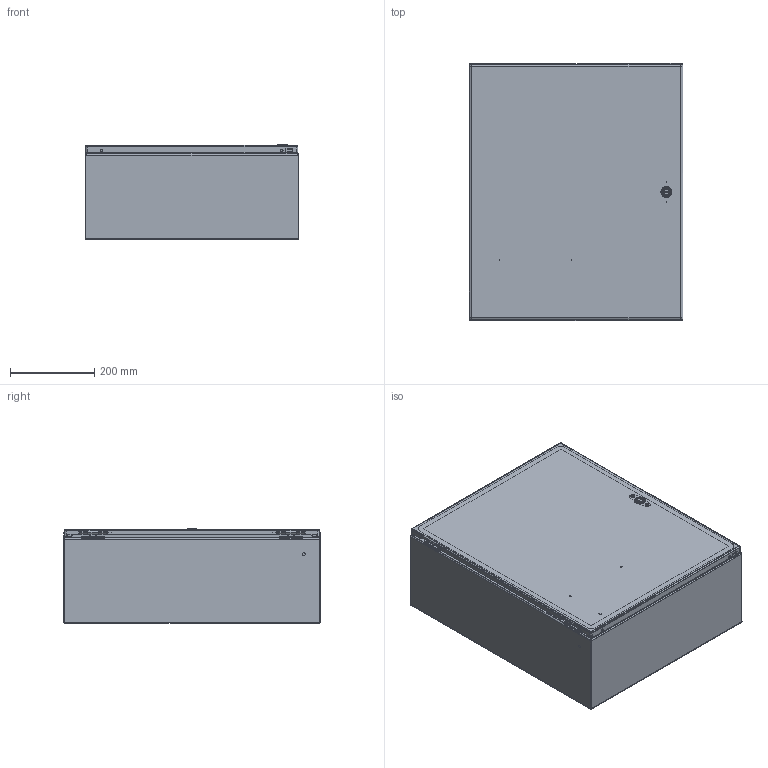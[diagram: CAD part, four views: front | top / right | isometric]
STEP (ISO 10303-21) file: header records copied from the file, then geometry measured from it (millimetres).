
FILE_DESCRIPTION (( 'STEP AP203' ), '1' );
FILE_NAME ('csd24208lg.STEP', '2012-04-24T20:06:20', ( 'User' ), ( 'Pentair Inc' ), 'SwSTEP 2.0', 'SolidWorks 2010', '' );
FILE_SCHEMA (( 'CONFIG_CONTROL_DESIGN' ));
Length unit declared in the file: inch
Products named in the file (27): csd24208lg; 87934532; 87934335_default; 23271001_After Weld; 87937931_assy; 87937971_weldment; 87936130; 99401225; 87931362_87931362; 64101001; 64201001; 87541994_Installed Height; 87541995; 64202001; 64210001; 64203001; 87927840_87927840; 87932903; 64138001; 89057563; 87543027; 89076399; 89056623; 87929507; 87929767; 87929769_Installed on Pin; 89076193
Assembly tree (38 placements, depth 4):
  csd24208lg
    87929507  x2
      87929767
      87929769_Installed on Pin
    87934532
      23271001_After Weld  x4
      99401225
      87934335_default
    87937931_assy
      87932903  x2
      89057563
      64138001  x2
      87937971_weldment
        87931362_87931362  x4
        87936130
        99401225
      64101001
        87927840_87927840
        64201001
        64210001
        87541994_Installed Height
        64202001
        87541995
        64203001
    89076399  x2
      89056623
      89076193
    87543027  x2
Bounding box: 508 x 610.33 x 223.9 mm (x, y, z)
Volume: 1616331.9 mm3; surface area: 2455319.6 mm2
Topology: 35 solids, 35 shells, 1689 faces, 4125 edges, 2490 vertices
Faces by surface type: plane 652, cylinder 547, bspline 288, torus 106, cone 88, sphere 8
Entity records: 46223 total; most frequent: CARTESIAN_POINT 16302, ORIENTED_EDGE 5874, DIRECTION 5117, EDGE_CURVE 2937, AXIS2_PLACEMENT_3D 1833, VERTEX_POINT 1802, LINE 1451, VECTOR 1451
